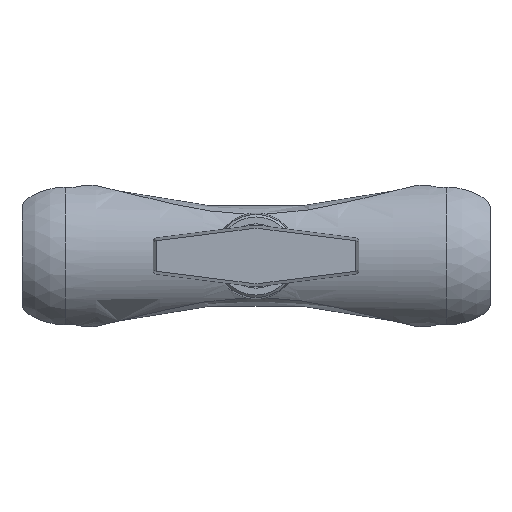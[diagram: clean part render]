
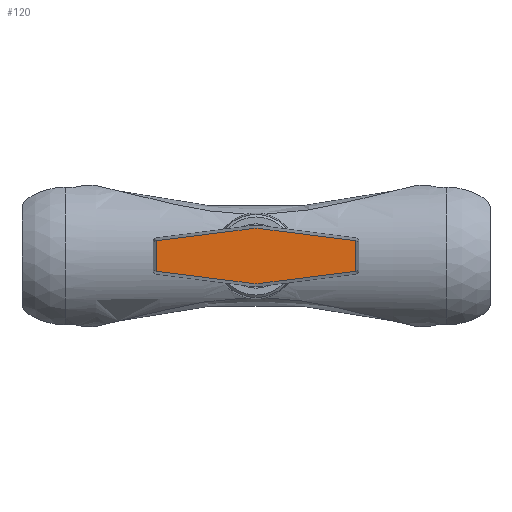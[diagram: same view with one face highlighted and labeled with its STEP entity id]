
A CAD part, left-side view. The second image highlights one B-rep face of the part: STEP entity #120.
In plain terms, the highlighted planar face has unit normal (-1, 0, 0).
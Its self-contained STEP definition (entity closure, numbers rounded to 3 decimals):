
#120 = ADVANCED_FACE( '', ( #281 ), #282, .F. );
#281 = FACE_OUTER_BOUND( '', #512, .T. );
#282 = PLANE( '', #513 );
#512 = EDGE_LOOP( '', ( #1014, #1015, #1016, #1017, #1018, #1019, #1020, #1021, #1022, #1023, #1024, #1025 ) );
#513 = AXIS2_PLACEMENT_3D( '', #1026, #1027, #1028 );
#1014 = ORIENTED_EDGE( '', *, *, #1716, .F. );
#1015 = ORIENTED_EDGE( '', *, *, #1717, .F. );
#1016 = ORIENTED_EDGE( '', *, *, #1718, .F. );
#1017 = ORIENTED_EDGE( '', *, *, #1719, .F. );
#1018 = ORIENTED_EDGE( '', *, *, #1720, .F. );
#1019 = ORIENTED_EDGE( '', *, *, #1721, .F. );
#1020 = ORIENTED_EDGE( '', *, *, #1722, .F. );
#1021 = ORIENTED_EDGE( '', *, *, #1723, .F. );
#1022 = ORIENTED_EDGE( '', *, *, #1724, .F. );
#1023 = ORIENTED_EDGE( '', *, *, #1725, .F. );
#1024 = ORIENTED_EDGE( '', *, *, #1726, .F. );
#1025 = ORIENTED_EDGE( '', *, *, #1727, .F. );
#1026 = CARTESIAN_POINT( '', ( -53.01, 0., 1.41 ) );
#1027 = DIRECTION( '', ( 1., 0., 0. ) );
#1028 = DIRECTION( '', ( 0., 0., -1. ) );
#1716 = EDGE_CURVE( '', #2136, #2137, #2138, .T. );
#1717 = EDGE_CURVE( '', #2139, #2136, #2140, .T. );
#1718 = EDGE_CURVE( '', #2141, #2139, #2142, .T. );
#1719 = EDGE_CURVE( '', #2143, #2141, #2144, .T. );
#1720 = EDGE_CURVE( '', #2145, #2143, #2146, .T. );
#1721 = EDGE_CURVE( '', #2147, #2145, #2148, .T. );
#1722 = EDGE_CURVE( '', #2149, #2147, #2150, .T. );
#1723 = EDGE_CURVE( '', #2151, #2149, #2152, .T. );
#1724 = EDGE_CURVE( '', #2153, #2151, #2154, .T. );
#1725 = EDGE_CURVE( '', #2155, #2153, #2156, .T. );
#1726 = EDGE_CURVE( '', #2157, #2155, #2158, .T. );
#1727 = EDGE_CURVE( '', #2137, #2157, #2159, .T. );
#2136 = VERTEX_POINT( '', #3467 );
#2137 = VERTEX_POINT( '', #3468 );
#2138 = LINE( '', #3469, #3470 );
#2139 = VERTEX_POINT( '', #3471 );
#2140 = CIRCLE( '', #3472, 0.128 );
#2141 = VERTEX_POINT( '', #3473 );
#2142 = LINE( '', #3474, #3475 );
#2143 = VERTEX_POINT( '', #3476 );
#2144 = CIRCLE( '', #3477, 0.128 );
#2145 = VERTEX_POINT( '', #3478 );
#2146 = LINE( '', #3479, #3480 );
#2147 = VERTEX_POINT( '', #3481 );
#2148 = CIRCLE( '', #3482, 7.112 );
#2149 = VERTEX_POINT( '', #3483 );
#2150 = LINE( '', #3484, #3485 );
#2151 = VERTEX_POINT( '', #3486 );
#2152 = CIRCLE( '', #3487, 0.128 );
#2153 = VERTEX_POINT( '', #3488 );
#2154 = LINE( '', #3489, #3490 );
#2155 = VERTEX_POINT( '', #3491 );
#2156 = CIRCLE( '', #3492, 0.128 );
#2157 = VERTEX_POINT( '', #3493 );
#2158 = LINE( '', #3494, #3495 );
#2159 = CIRCLE( '', #3496, 7.112 );
#3467 = CARTESIAN_POINT( '', ( -53.01, 30.623, 4.693 ) );
#3468 = CARTESIAN_POINT( '', ( -53.01, 0.895, 8.465 ) );
#3469 = CARTESIAN_POINT( '', ( -53.01, 0.895, 8.465 ) );
#3470 = VECTOR( '', #4126, 1000. );
#3471 = CARTESIAN_POINT( '', ( -53.01, 30.735, 4.566 ) );
#3472 = AXIS2_PLACEMENT_3D( '', #4127, #4128, #4129 );
#3473 = CARTESIAN_POINT( '', ( -53.01, 30.735, -4.566 ) );
#3474 = CARTESIAN_POINT( '', ( -53.01, 30.735, 1.41 ) );
#3475 = VECTOR( '', #4130, 1000. );
#3476 = CARTESIAN_POINT( '', ( -53.01, 30.623, -4.693 ) );
#3477 = AXIS2_PLACEMENT_3D( '', #4131, #4132, #4133 );
#3478 = CARTESIAN_POINT( '', ( -53.01, 0.895, -8.465 ) );
#3479 = CARTESIAN_POINT( '', ( -53.01, 1.248, -8.421 ) );
#3480 = VECTOR( '', #4134, 1000. );
#3481 = CARTESIAN_POINT( '', ( -53.01, -0.895, -8.465 ) );
#3482 = AXIS2_PLACEMENT_3D( '', #4135, #4136, #4137 );
#3483 = CARTESIAN_POINT( '', ( -53.01, -30.623, -4.693 ) );
#3484 = CARTESIAN_POINT( '', ( -53.01, -1.248, -8.421 ) );
#3485 = VECTOR( '', #4138, 1000. );
#3486 = CARTESIAN_POINT( '', ( -53.01, -30.735, -4.566 ) );
#3487 = AXIS2_PLACEMENT_3D( '', #4139, #4140, #4141 );
#3488 = CARTESIAN_POINT( '', ( -53.01, -30.735, 4.566 ) );
#3489 = CARTESIAN_POINT( '', ( -53.01, -30.735, 1.41 ) );
#3490 = VECTOR( '', #4142, 1000. );
#3491 = CARTESIAN_POINT( '', ( -53.01, -30.623, 4.693 ) );
#3492 = AXIS2_PLACEMENT_3D( '', #4143, #4144, #4145 );
#3493 = CARTESIAN_POINT( '', ( -53.01, -0.895, 8.465 ) );
#3494 = CARTESIAN_POINT( '', ( -53.01, -0.895, 8.465 ) );
#3495 = VECTOR( '', #4146, 1000. );
#3496 = AXIS2_PLACEMENT_3D( '', #4147, #4148, #4149 );
#4126 = DIRECTION( '', ( 0., -0.992, 0.126 ) );
#4127 = CARTESIAN_POINT( '', ( -53.01, 30.607, 4.566 ) );
#4128 = DIRECTION( '', ( 1., 0., 0. ) );
#4129 = DIRECTION( '', ( 0., 0., -1. ) );
#4130 = DIRECTION( '', ( 0., 0., 1. ) );
#4131 = CARTESIAN_POINT( '', ( -53.01, 30.607, -4.566 ) );
#4132 = DIRECTION( '', ( 1., 0., 0. ) );
#4133 = DIRECTION( '', ( 0., 0., -1. ) );
#4134 = DIRECTION( '', ( 0., 0.992, 0.126 ) );
#4135 = CARTESIAN_POINT( '', ( -53.01, 0., -1.41 ) );
#4136 = DIRECTION( '', ( 1., 0., 0. ) );
#4137 = DIRECTION( '', ( 0., 0., -1. ) );
#4138 = DIRECTION( '', ( 0., 0.992, -0.126 ) );
#4139 = CARTESIAN_POINT( '', ( -53.01, -30.607, -4.566 ) );
#4140 = DIRECTION( '', ( 1., 0., 0. ) );
#4141 = DIRECTION( '', ( 0., 0., -1. ) );
#4142 = DIRECTION( '', ( 0., 0., -1. ) );
#4143 = CARTESIAN_POINT( '', ( -53.01, -30.607, 4.566 ) );
#4144 = DIRECTION( '', ( 1., 0., 0. ) );
#4145 = DIRECTION( '', ( 0., 0., -1. ) );
#4146 = DIRECTION( '', ( 0., -0.992, -0.126 ) );
#4147 = CARTESIAN_POINT( '', ( -53.01, 0., 1.41 ) );
#4148 = DIRECTION( '', ( 1., 0., 0. ) );
#4149 = DIRECTION( '', ( 0., 0., -1. ) );
